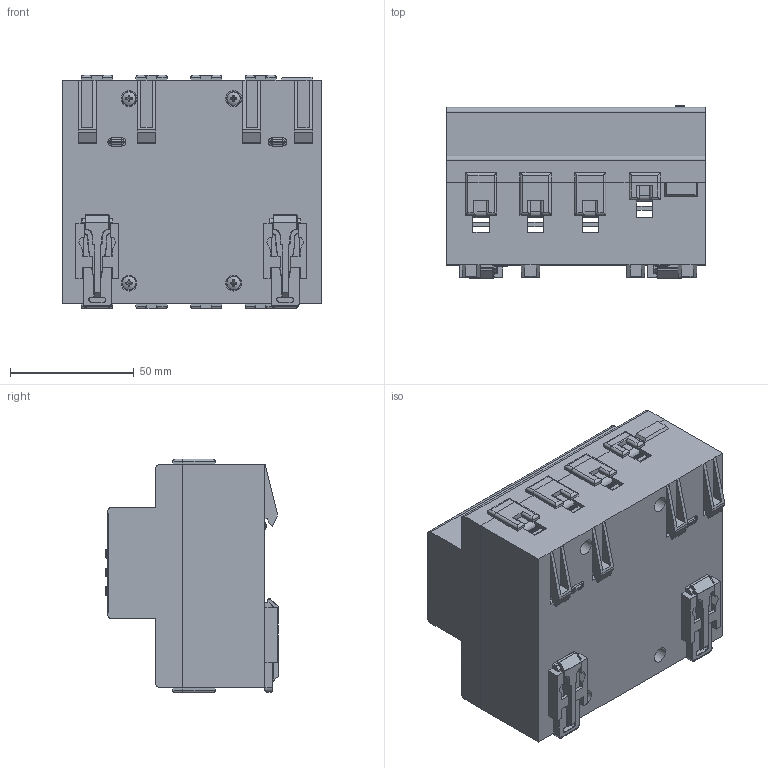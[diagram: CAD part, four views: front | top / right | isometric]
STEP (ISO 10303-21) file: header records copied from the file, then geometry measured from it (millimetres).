
FILE_DESCRIPTION(('STEP AP242'), '1');
FILE_NAME('ﾑ碚濱ﾓﾇﾌ-3-63ﾖ', '', ('UNSPECIFIED'), ('UNSPECIFIED'), 'C3D Converter', 'C3D Toolkit', '');
FILE_SCHEMA(('AP242_MANAGED_MODEL_BASED_3D_ENGINEERING_MIM_LF { 1 0 10303 442 1 1 4 }'));
Length unit declared in the file: millimetre
Products named in the file (15): Klem_7x9; Throw_bus; 105mm3p_lock
Assembly tree (36 placements, depth 2):
  (unnamed)
    (unnamed)
    (unnamed)
    Klem_7x9
    Klem_7x9  x9
    Throw_bus  x4
    (unnamed)
    (unnamed)  x7
    105mm3p_lock  x2
    (unnamed)
    (unnamed)  x3
    (unnamed)
    (unnamed)
    (unnamed)  x3
    (unnamed)
Bounding box: 104.8 x 69.6 x 94.3 mm (x, y, z)
Volume: 93223.2 mm3; surface area: 122274.9 mm2
Topology: 69 solids, 69 shells, 4356 faces, 12166 edges, 7968 vertices
Faces by surface type: plane 3307, cylinder 518, extrusion 254, bspline 116, torus 103, sphere 40, cone 18
Full cylindrical faces by diameter (mm): 2.5 x8, 2.9 x4, 3.5 x3, 3.6 x6, 4 x8, 5 x20, 5.6 x4, 6.4 x4, 6.5 x8, 8 x4, 8.5 x8, 9 x6
Entity records: 134029 total; most frequent: CARTESIAN_POINT 23166, ORIENTED_EDGE 18524, DIRECTION 15606, EDGE_CURVE 9262, VECTOR 8298, LINE 8044, VERTEX_POINT 6144, AXIS2_PLACEMENT_3D 3654
